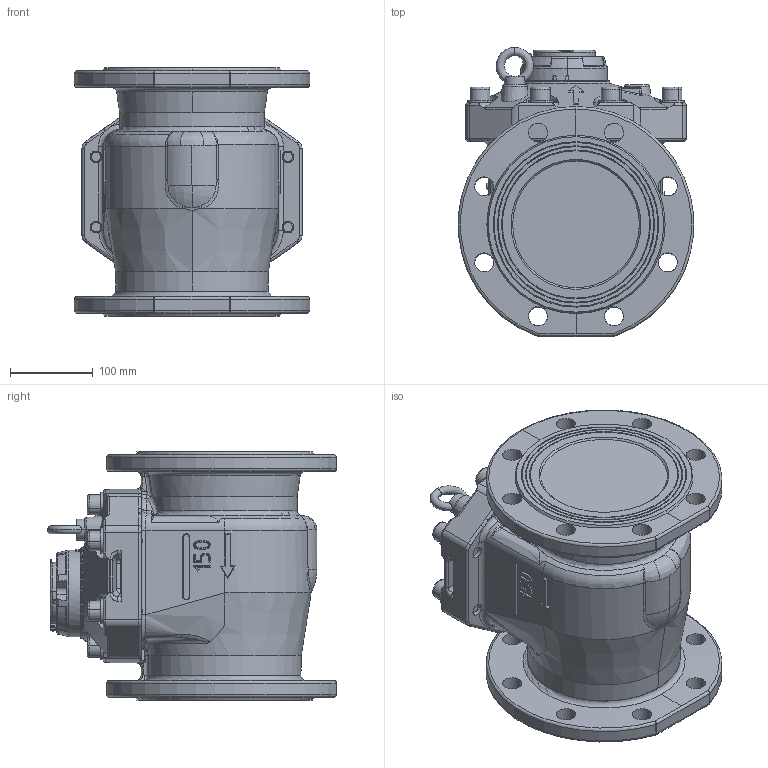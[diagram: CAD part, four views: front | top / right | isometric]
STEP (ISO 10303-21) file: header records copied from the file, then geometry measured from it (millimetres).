
FILE_DESCRIPTION (( 'STEP AP214' ), '1' );
FILE_NAME ('MWN150 IP65 NKO.STEP', '2025-07-09T12:49:18', ( '' ), ( '' ), 'SwSTEP 2.0', 'SolidWorks 2019', '' );
FILE_SCHEMA (( 'AUTOMOTIVE_DESIGN' ));
Length unit declared in the file: millimetre
Products named in the file (1): MWN150 IP65 NKO
Bounding box: 284.04 x 349 x 300 mm (x, y, z)
Volume: 13860312.3 mm3; surface area: 642432.3 mm2
Topology: 8 solids, 32 shells, 1586 faces, 4016 edges, 2487 vertices
Faces by surface type: plane 566, cylinder 392, bspline 322, cone 177, torus 92, sphere 37
Entity records: 96479 total; most frequent: CARTESIAN_POINT 44108, ORIENTED_EDGE 7862, DIRECTION 6501, EDGE_CURVE 3931, VERTEX_POINT 2480, AXIS2_PLACEMENT_3D 2437, EDGE_LOOP 1737, VECTOR 1627
